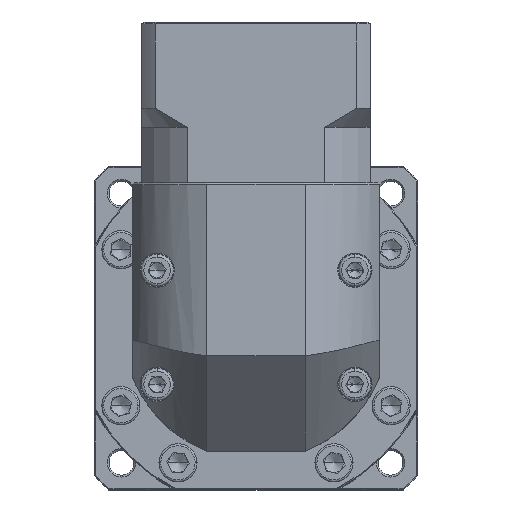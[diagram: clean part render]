
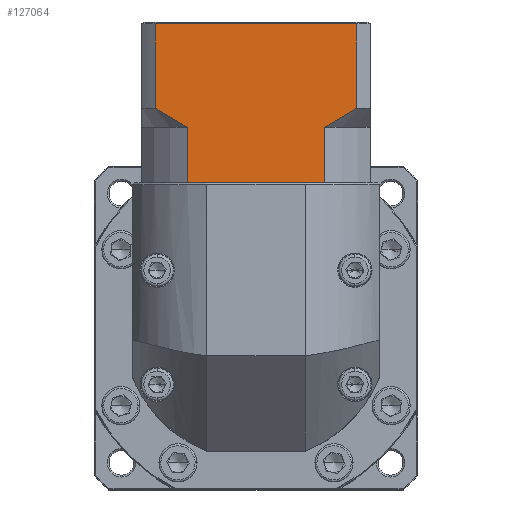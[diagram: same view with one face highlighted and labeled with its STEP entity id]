
A CAD part, top view. The second image highlights one B-rep face of the part: STEP entity #127064.
In plain terms, the highlighted planar face has unit normal (0, 0, 1).
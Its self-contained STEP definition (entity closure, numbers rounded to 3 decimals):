
#1220 = CARTESIAN_POINT ( 'NONE',  ( -112.454, 55.774, 47.111 ) ) ;
#2812 = EDGE_CURVE ( 'NONE', #107976, #124107, #123530, .T. ) ;
#2889 = CARTESIAN_POINT ( 'NONE',  ( -55.996, 70.274, 47.111 ) ) ;
#3520 = ORIENTED_EDGE ( 'NONE', *, *, #55208, .F. ) ;
#4366 = LINE ( 'NONE', #2889, #113739 ) ;
#4791 = LINE ( 'NONE', #116934, #54461 ) ;
#5068 = EDGE_CURVE ( 'NONE', #107976, #30254, #4791, .T. ) ;
#6808 = VECTOR ( 'NONE', #36197, 1000. ) ;
#7294 = CARTESIAN_POINT ( 'NONE',  ( -106.173, 73.501, 47.111 ) ) ;
#10204 = PLANE ( 'NONE',  #43867 ) ;
#10786 = CARTESIAN_POINT ( 'NONE',  ( -100.482, 70.274, 47.111 ) ) ;
#13012 = ORIENTED_EDGE ( 'NONE', *, *, #126841, .T. ) ;
#15594 = VERTEX_POINT ( 'NONE', #114419 ) ;
#20657 = CARTESIAN_POINT ( 'NONE',  ( -65.417, 55.774, 47.111 ) ) ;
#21127 = ORIENTED_EDGE ( 'NONE', *, *, #101740, .F. ) ;
#22107 = EDGE_CURVE ( 'NONE', #68924, #48850, #98209, .T. ) ;
#23733 = B_SPLINE_CURVE_WITH_KNOTS ( 'NONE', 3,
 ( #39697, #48917, #7294, #124513, #91862, #102605 ),
 .UNSPECIFIED., .F., .F.,
 ( 4, 2, 4 ),
 ( 0.052, 0.057, 0.062 ),
 .UNSPECIFIED. ) ;
#24384 = LINE ( 'NONE', #48306, #125591 ) ;
#24442 = DIRECTION ( 'NONE',  ( 1., 0., 0. ) ) ;
#24999 = LINE ( 'NONE', #100911, #6808 ) ;
#28577 = VECTOR ( 'NONE', #61147, 1000. ) ;
#28708 = B_SPLINE_CURVE_WITH_KNOTS ( 'NONE', 3,
 ( #102778, #135936, #82362, #60641, #61535, #72615 ),
 .UNSPECIFIED., .F., .F.,
 ( 4, 2, 4 ),
 ( 0.1, 0.104, 0.109 ),
 .UNSPECIFIED. ) ;
#30254 = VERTEX_POINT ( 'NONE', #63721 ) ;
#36197 = DIRECTION ( 'NONE',  ( -1., 0., 0. ) ) ;
#37248 = DIRECTION ( 'NONE',  ( 0., -1., 0. ) ) ;
#38848 = DIRECTION ( 'NONE',  ( 0., 1., 0. ) ) ;
#39588 = ORIENTED_EDGE ( 'NONE', *, *, #2812, .F. ) ;
#39697 = CARTESIAN_POINT ( 'NONE',  ( -108.911, 75.274, 47.111 ) ) ;
#40765 = VECTOR ( 'NONE', #24442, 1000. ) ;
#43867 = AXIS2_PLACEMENT_3D ( 'NONE', #72607, #115329, #137733 ) ;
#48306 = CARTESIAN_POINT ( 'NONE',  ( -64.426, 70.274, 47.111 ) ) ;
#48604 = EDGE_CURVE ( 'NONE', #129347, #93263, #28708, .T. ) ;
#48850 = VERTEX_POINT ( 'NONE', #74920 ) ;
#48917 = CARTESIAN_POINT ( 'NONE',  ( -107.552, 74.375, 47.111 ) ) ;
#53950 = ORIENTED_EDGE ( 'NONE', *, *, #57922, .T. ) ;
#54291 = ORIENTED_EDGE ( 'NONE', *, *, #48604, .T. ) ;
#54461 = VECTOR ( 'NONE', #117848, 1000. ) ;
#55208 = EDGE_CURVE ( 'NONE', #129347, #120531, #24384, .T. ) ;
#56106 = EDGE_CURVE ( 'NONE', #30254, #86711, #116789, .T. ) ;
#57193 = VECTOR ( 'NONE', #65905, 1000. ) ;
#57922 = EDGE_CURVE ( 'NONE', #86711, #120531, #87007, .T. ) ;
#60641 = CARTESIAN_POINT ( 'NONE',  ( -58.739, 73.499, 47.111 ) ) ;
#61147 = DIRECTION ( 'NONE',  ( 0., 1., 0. ) ) ;
#61535 = CARTESIAN_POINT ( 'NONE',  ( -57.359, 74.373, 47.111 ) ) ;
#62159 = EDGE_CURVE ( 'NONE', #68924, #124107, #23733, .T. ) ;
#63721 = CARTESIAN_POINT ( 'NONE',  ( -99.491, 55.774, 47.111 ) ) ;
#65905 = DIRECTION ( 'NONE',  ( 1., 0., 0. ) ) ;
#66171 = CARTESIAN_POINT ( 'NONE',  ( -64.426, 70.274, 47.111 ) ) ;
#68924 = VERTEX_POINT ( 'NONE', #103133 ) ;
#69514 = FACE_OUTER_BOUND ( 'NONE', #121163, .T. ) ;
#72607 = CARTESIAN_POINT ( 'NONE',  ( -112.454, 97.974, 47.111 ) ) ;
#72615 = CARTESIAN_POINT ( 'NONE',  ( -55.996, 75.274, 47.111 ) ) ;
#74920 = CARTESIAN_POINT ( 'NONE',  ( -108.911, 97.474, 47.111 ) ) ;
#82362 = CARTESIAN_POINT ( 'NONE',  ( -61.544, 71.825, 47.111 ) ) ;
#86711 = VERTEX_POINT ( 'NONE', #20657 ) ;
#87007 = LINE ( 'NONE', #129682, #40765 ) ;
#87798 = ORIENTED_EDGE ( 'NONE', *, *, #62159, .T. ) ;
#88092 = ORIENTED_EDGE ( 'NONE', *, *, #5068, .T. ) ;
#88114 = CARTESIAN_POINT ( 'NONE',  ( -55.996, 75.274, 47.111 ) ) ;
#90532 = CARTESIAN_POINT ( 'NONE',  ( -100.482, 70.274, 47.111 ) ) ;
#91862 = CARTESIAN_POINT ( 'NONE',  ( -101.934, 71.022, 47.111 ) ) ;
#93263 = VERTEX_POINT ( 'NONE', #88114 ) ;
#98159 = CARTESIAN_POINT ( 'NONE',  ( -100.482, 55.774, 47.111 ) ) ;
#98209 = LINE ( 'NONE', #114479, #28577 ) ;
#100911 = CARTESIAN_POINT ( 'NONE',  ( -112.454, 97.474, 47.111 ) ) ;
#101740 = EDGE_CURVE ( 'NONE', #15594, #93263, #4366, .T. ) ;
#102605 = CARTESIAN_POINT ( 'NONE',  ( -100.482, 70.274, 47.111 ) ) ;
#102778 = CARTESIAN_POINT ( 'NONE',  ( -64.426, 70.274, 47.111 ) ) ;
#103133 = CARTESIAN_POINT ( 'NONE',  ( -108.911, 75.274, 47.111 ) ) ;
#104252 = ORIENTED_EDGE ( 'NONE', *, *, #56106, .T. ) ;
#107976 = VERTEX_POINT ( 'NONE', #98159 ) ;
#108242 = ORIENTED_EDGE ( 'NONE', *, *, #22107, .F. ) ;
#109372 = DIRECTION ( 'NONE',  ( 0., -1., 0. ) ) ;
#113739 = VECTOR ( 'NONE', #109372, 1000. ) ;
#114419 = CARTESIAN_POINT ( 'NONE',  ( -55.996, 97.474, 47.111 ) ) ;
#114479 = CARTESIAN_POINT ( 'NONE',  ( -108.911, 70.274, 47.111 ) ) ;
#115329 = DIRECTION ( 'NONE',  ( 0., 0., -1. ) ) ;
#116789 = LINE ( 'NONE', #1220, #57193 ) ;
#116934 = CARTESIAN_POINT ( 'NONE',  ( -112.454, 55.774, 47.111 ) ) ;
#117848 = DIRECTION ( 'NONE',  ( 1., 0., 0. ) ) ;
#120531 = VERTEX_POINT ( 'NONE', #135312 ) ;
#121163 = EDGE_LOOP ( 'NONE', ( #21127, #13012, #108242, #87798, #39588, #88092, #104252, #53950, #3520, #54291 ) ) ;
#123530 = LINE ( 'NONE', #90532, #126844 ) ;
#124107 = VERTEX_POINT ( 'NONE', #10786 ) ;
#124513 = CARTESIAN_POINT ( 'NONE',  ( -103.365, 71.826, 47.111 ) ) ;
#125591 = VECTOR ( 'NONE', #37248, 1000. ) ;
#126841 = EDGE_CURVE ( 'NONE', #15594, #48850, #24999, .T. ) ;
#126844 = VECTOR ( 'NONE', #38848, 1000. ) ;
#127064 = ADVANCED_FACE ( 'NONE', ( #69514 ), #10204, .F. ) ;
#129347 = VERTEX_POINT ( 'NONE', #66171 ) ;
#129682 = CARTESIAN_POINT ( 'NONE',  ( -112.454, 55.774, 47.111 ) ) ;
#135312 = CARTESIAN_POINT ( 'NONE',  ( -64.426, 55.774, 47.111 ) ) ;
#135936 = CARTESIAN_POINT ( 'NONE',  ( -62.97, 71.024, 47.111 ) ) ;
#137733 = DIRECTION ( 'NONE',  ( 0., 1., 0. ) ) ;
